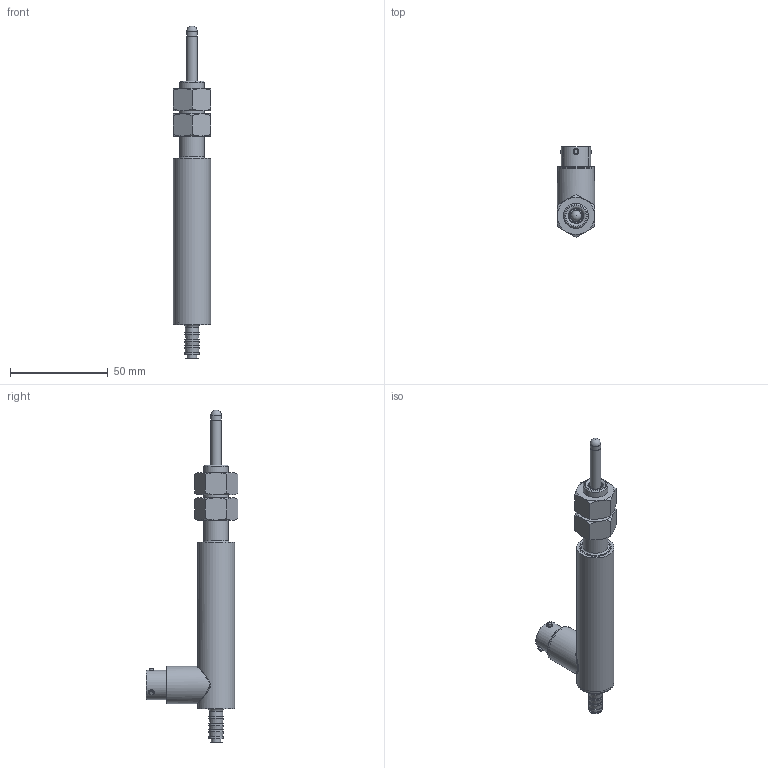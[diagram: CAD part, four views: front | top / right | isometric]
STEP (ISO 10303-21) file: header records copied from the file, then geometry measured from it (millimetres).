
FILE_DESCRIPTION(/* description */ (''),/* implementation_level */ '2;1');
FILE_NAME(/* name */ 'GHRA-750-A-250 ASS''Y.iam.stp',/* time_stamp */ '2023-11-09T15:21:24-05:00',/* author */ ('J. Nielson'),/* organization */ (''),/* preprocessor_version */ 'ST-DEVELOPER v20',/* originating_system */ 'Autodesk Inventor 2024',/* authorisation */ '');
FILE_SCHEMA (('AUTOMOTIVE_DESIGN { 1 0 10303 214 3 1 1 }'));
Length unit declared in the file: inch
Products named in the file (4): GHRA-750-A-250 Assembly; GHRA-750-A-250 HOUSING_Shrinkwrap_1; GHRA-750-A-250 SHAFT_Shrinkwrap_1; AS 2465 - 1/2  UNF
Assembly tree (4 placements, depth 2):
  GHRA-750-A-250 Assembly
    GHRA-750-A-250 HOUSING_Shrinkwrap_1
    GHRA-750-A-250 SHAFT_Shrinkwrap_1
    AS 2465 - 1/2  UNF  x2
Bounding box: 19.05 x 46.71 x 170.05 mm (x, y, z)
Volume: 20654.4 mm3; surface area: 23700.9 mm2
Topology: 17 solids, 17 shells, 222 faces, 441 edges, 283 vertices
Faces by surface type: plane 88, cylinder 74, cone 47, bspline 7, torus 5, sphere 1
Full cylindrical faces by diameter (mm): 0.762 x12, 2.032 x3, 2.845 x3, 3.048 x3, 4.762 x1, 4.826 x2, 5.334 x4, 5.397 x1, 6 x1, 6.731 x1, 7.493 x4, 7.671 x2, 7.874 x1, 11.328 x2, 12.7 x1, 13.208 x1, 14.986 x1, 15.748 x2, 16.51 x1, 17.018 x1, 17.069 x1, 17.78 x1, 18.034 x1, 18.415 x6, 19.05 x2
Entity records: 7771 total; most frequent: CARTESIAN_POINT 3151, DIRECTION 946, ORIENTED_EDGE 778, AXIS2_PLACEMENT_3D 405, EDGE_CURVE 389, EDGE_LOOP 257, VERTEX_POINT 254, CIRCLE 205
